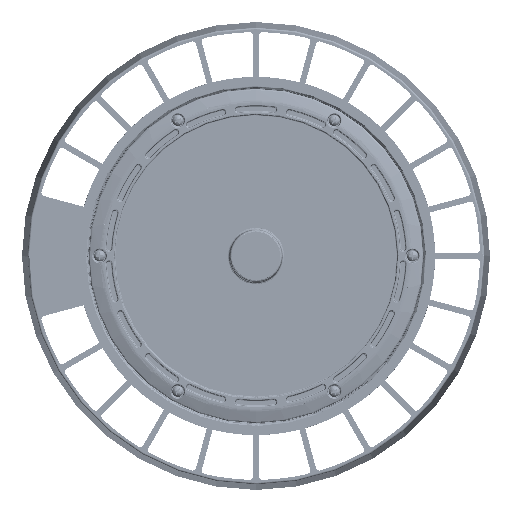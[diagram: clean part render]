
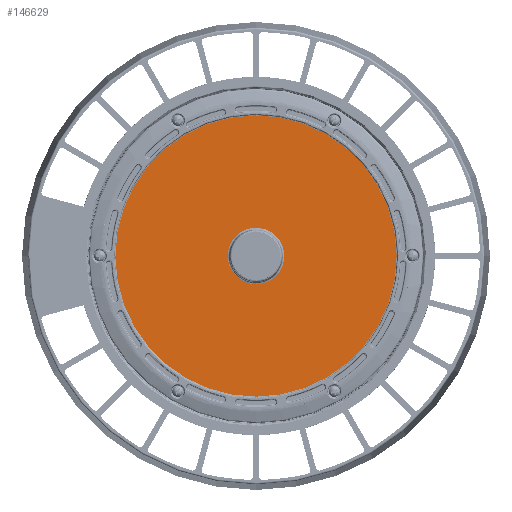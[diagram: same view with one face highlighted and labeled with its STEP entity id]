
A CAD part, front view. The second image highlights one B-rep face of the part: STEP entity #146629.
In plain terms, the highlighted planar face has unit normal (0, -1, 0) as drawn and (0, 0, 1) by its records, which use the part's own axes.
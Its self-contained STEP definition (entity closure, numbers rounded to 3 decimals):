
#117464=CARTESIAN_POINT('',(0.,0.,6.));
#117465=DIRECTION('',(0.,0.,-1.));
#117466=DIRECTION('',(1.,0.,0.));
#117467=AXIS2_PLACEMENT_3D('',#117464,#117465,#117466);
#117469=CARTESIAN_POINT('',(0.,0.,6.));
#117470=DIRECTION('',(0.,0.,-1.));
#117471=DIRECTION('',(-1.,-0.009,0.));
#117472=AXIS2_PLACEMENT_3D('',#117469,#117470,#117471);
#117474=CARTESIAN_POINT('',(0.,0.,6.));
#117475=DIRECTION('',(0.,0.,1.));
#117476=DIRECTION('',(1.,0.,0.));
#117477=AXIS2_PLACEMENT_3D('',#117474,#117475,#117476);
#117479=CARTESIAN_POINT('',(0.,0.,6.));
#117480=DIRECTION('',(0.,0.,1.));
#117481=DIRECTION('',(-0.999,0.048,0.));
#117482=AXIS2_PLACEMENT_3D('',#117479,#117480,#117481);
#117484=CARTESIAN_POINT('',(0.,0.,6.));
#117485=DIRECTION('',(0.,0.,1.));
#117486=DIRECTION('',(-1.,0.,0.));
#117487=AXIS2_PLACEMENT_3D('',#117484,#117485,#117486);
#117489=CARTESIAN_POINT('',(0.,0.,6.));
#117490=DIRECTION('',(0.,0.,1.));
#117491=DIRECTION('',(0.999,-0.047,0.));
#117492=AXIS2_PLACEMENT_3D('',#117489,#117490,#117491);
#117494=CARTESIAN_POINT('',(0.,0.,6.));
#117495=DIRECTION('',(0.,0.,1.));
#117496=DIRECTION('',(1.,0.,0.));
#117497=AXIS2_PLACEMENT_3D('',#117494,#117495,#117496);
#119231=CARTESIAN_POINT('',(-77.345,-0.675,6.));
#119232=CARTESIAN_POINT('',(77.345,0.675,6.));
#119233=VERTEX_POINT('',#119231);
#119234=VERTEX_POINT('',#119232);
#119235=CARTESIAN_POINT('',(77.348,0.,6.));
#119236=VERTEX_POINT('',#119235);
#119237=CARTESIAN_POINT('',(15.557,0.,6.));
#119238=CARTESIAN_POINT('',(-15.539,0.74,6.));
#119239=VERTEX_POINT('',#119237);
#119240=VERTEX_POINT('',#119238);
#119241=CARTESIAN_POINT('',(-15.557,0.,6.));
#119242=VERTEX_POINT('',#119241);
#119243=CARTESIAN_POINT('',(15.54,-0.733,6.));
#119244=VERTEX_POINT('',#119243);
#146607=CARTESIAN_POINT('',(0.,0.,6.));
#146608=DIRECTION('',(0.,0.,1.));
#146609=DIRECTION('',(-1.,0.,0.));
#146610=AXIS2_PLACEMENT_3D('',#146607,#146608,#146609);
#146611=PLANE('',#146610);
#146613=ORIENTED_EDGE('',*,*,#146612,.F.);
#146615=ORIENTED_EDGE('',*,*,#146614,.T.);
#146616=ORIENTED_EDGE('',*,*,#146597,.T.);
#146617=EDGE_LOOP('',(#146613,#146615,#146616));
#146618=FACE_OUTER_BOUND('',#146617,.F.);
#146620=ORIENTED_EDGE('',*,*,#146619,.T.);
#146622=ORIENTED_EDGE('',*,*,#146621,.T.);
#146624=ORIENTED_EDGE('',*,*,#146623,.T.);
#146626=ORIENTED_EDGE('',*,*,#146625,.T.);
#146627=EDGE_LOOP('',(#146620,#146622,#146624,#146626));
#146628=FACE_BOUND('',#146627,.F.);
#146629=ADVANCED_FACE('',(#146618,#146628),#146611,.T.);
#117468=CIRCLE('',#117467,77.348);
#117473=CIRCLE('',#117472,77.348);
#117478=CIRCLE('',#117477,15.557);
#117483=CIRCLE('',#117482,15.557);
#117488=CIRCLE('',#117487,15.557);
#117493=CIRCLE('',#117492,15.557);
#117498=CIRCLE('',#117497,77.348);
#146597=EDGE_CURVE('',#119233,#119234,#117473,.T.);
#146612=EDGE_CURVE('',#119236,#119234,#117498,.T.);
#146614=EDGE_CURVE('',#119236,#119233,#117468,.T.);
#146619=EDGE_CURVE('',#119239,#119240,#117478,.T.);
#146621=EDGE_CURVE('',#119240,#119242,#117483,.T.);
#146623=EDGE_CURVE('',#119242,#119244,#117488,.T.);
#146625=EDGE_CURVE('',#119244,#119239,#117493,.T.);
